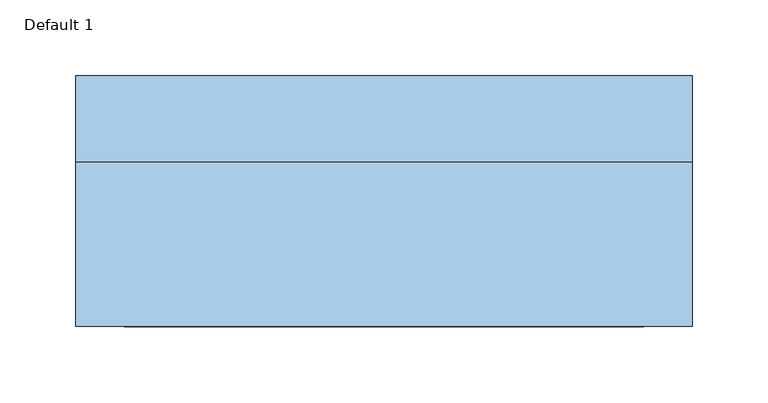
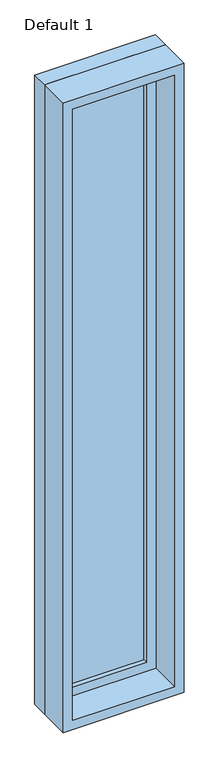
"""IFC4 building model written with IfcOpenShell, lengths in millimetres: window geometry, Planitar-Fixed : Default 1."""

from ifc_helpers import new_model, si_unit, frame, origin, place, context, project, spatial, polyline, outline, extrude, source, transform, mapped, element, save


def default_1_3eb0f4f5(model_context):
    return source(origin(), model_context, "Body", "SweptSolid", [
        extrude(outline(polyline([(3130.6, -184.2), (933.4, -184.2), (933.4, 184.2), (3130.6, 184.2), (3130.6, -184.2)]), holes=[polyline([(3086.6, -140.2), (3086.6, 140.2), (977.4, 140.2), (977.4, -140.2), (3086.6, -140.2)])]), frame((0.0, 38.85, 0.0), z_axis=(0.0, 1.0, 0.0), x_axis=(0.0, 0.0, 1.0)), (0.0, 0.0, 1.0), 44.0),
        extrude(outline(polyline([(3149.6, -203.2), (914.4, -203.2), (914.4, 203.2), (3149.6, 203.2), (3149.6, -203.2)]), holes=[polyline([(3130.6, -184.2), (3130.6, 184.2), (933.4, 184.2), (933.4, -184.2), (3130.6, -184.2)])]), frame((0.0, 38.85, 0.0), z_axis=(0.0, 1.0, 0.0), x_axis=(0.0, 0.0, 1.0)), (0.0, 0.0, 1.0), 56.7),
        extrude(outline(polyline([(3149.6, -203.2), (914.4, -203.2), (914.4, 203.2), (3149.6, 203.2), (3149.6, -203.2)]), holes=[polyline([(3117.6, -171.2), (3117.6, 171.2), (946.4, 171.2), (946.4, -171.2), (3117.6, -171.2)])]), frame((0.0, -69.55, 0.0), z_axis=(0.0, 1.0, 0.0), x_axis=(0.0, 0.0, 1.0)), (0.0, 0.0, 1.0), 108.4),
        extrude(outline(polyline([(-140.2, 66.85), (140.2, 66.85), (140.2, 54.85), (-140.2, 54.85), (-140.2, 66.85)])), frame((0.0, 0.0, 977.4), z_axis=(0.0, 0.0, 1.0), x_axis=(1.0, 0.0, 0.0)), (0.0, 0.0, 1.0), 2109.2),
    ])


if __name__ == "__main__":
    model = new_model("IFC4")
    model_context = context("Model", 3, world=origin())
    ifc_project = project(units=[si_unit("LENGTHUNIT", "METRE", prefix="MILLI")], contexts=[model_context])
    site = spatial("IfcSite", under=ifc_project)
    building = spatial("IfcBuilding", under=site)
    placement = place(None, origin())
    default_1_shape = default_1_3eb0f4f5(model_context)
    element("IfcWindow", 1, ObjectType="Planitar-Fixed : Default 1", at=placement, inside=building, context=model_context, shape_type="MappedRepresentation", body=[
        mapped(default_1_shape, transform((0.0, 0.0, 0.0), x_axis=(1.0, 0.0, 0.0), y_axis=(0.0, 1.0, 0.0), z_axis=(0.0, 0.0, 1.0))),
    ])
    save(model, "model.ifc")
